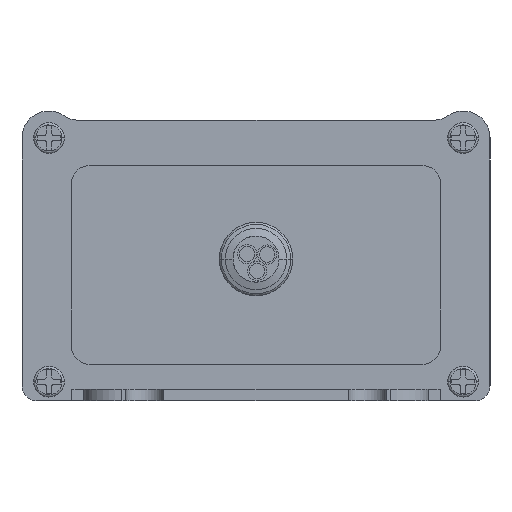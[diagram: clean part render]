
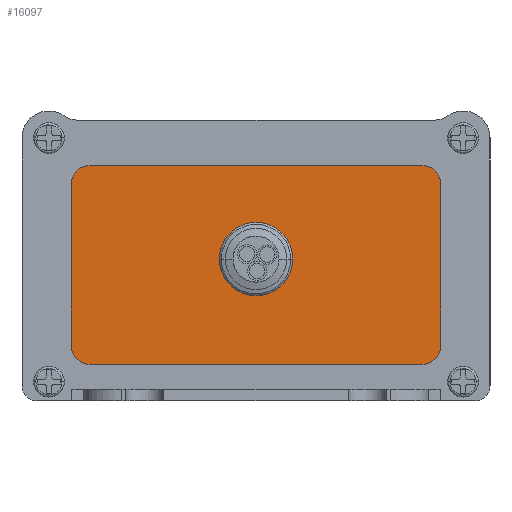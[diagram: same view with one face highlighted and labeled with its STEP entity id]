
A CAD part, left-side view. The second image highlights one B-rep face of the part: STEP entity #16097.
In plain terms, the highlighted planar face has unit normal (-1, 0, 0).
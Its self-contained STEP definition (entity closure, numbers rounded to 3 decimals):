
#5729=CARTESIAN_POINT('',(7.5,-14.5,18.5));
#5730=DIRECTION('',(1.,0.,0.));
#5731=DIRECTION('',(0.,1.,0.));
#5732=AXIS2_PLACEMENT_3D('',#5729,#5730,#5731);
#5737=CARTESIAN_POINT('',(7.5,-14.5,18.5));
#5738=DIRECTION('',(1.,0.,0.));
#5739=DIRECTION('',(0.,-1.,0.));
#5740=AXIS2_PLACEMENT_3D('',#5737,#5738,#5739);
#5745=CARTESIAN_POINT('',(7.5,7.113,28.203));
#5746=DIRECTION('',(-1.,0.,0.));
#5747=DIRECTION('',(0.,0.,1.));
#5748=AXIS2_PLACEMENT_3D('',#5745,#5746,#5747);
#5753=CARTESIAN_POINT('',(7.5,-36.113,28.203));
#5754=DIRECTION('',(-1.,0.,0.));
#5755=DIRECTION('',(0.,-1.,0.));
#5756=AXIS2_PLACEMENT_3D('',#5753,#5754,#5755);
#5761=CARTESIAN_POINT('',(7.5,-36.113,7.282));
#5762=DIRECTION('',(-1.,0.,0.));
#5763=DIRECTION('',(0.,0.,-1.));
#5764=AXIS2_PLACEMENT_3D('',#5761,#5762,#5763);
#5769=CARTESIAN_POINT('',(7.5,7.113,7.282));
#5770=DIRECTION('',(-1.,0.,0.));
#5771=DIRECTION('',(0.,1.,0.));
#5772=AXIS2_PLACEMENT_3D('',#5769,#5770,#5771);
#5777=DIRECTION('',(0.,0.,1.));
#5778=VECTOR('',#5777,20.921);
#5779=CARTESIAN_POINT('',(7.5,9.613,7.282));
#5780=LINE('',#5779,#5778);
#5798=DIRECTION('',(0.,1.,0.));
#5799=VECTOR('',#5798,43.225);
#5800=CARTESIAN_POINT('',(7.5,-36.113,4.782));
#5801=LINE('',#5800,#5799);
#5819=DIRECTION('',(0.,0.,-1.));
#5820=VECTOR('',#5819,20.921);
#5821=CARTESIAN_POINT('',(7.5,-38.613,28.203));
#5822=LINE('',#5821,#5820);
#5840=DIRECTION('',(0.,-1.,0.));
#5841=VECTOR('',#5840,43.225);
#5842=CARTESIAN_POINT('',(7.5,7.113,30.703));
#5843=LINE('',#5842,#5841);
#13484=CARTESIAN_POINT('',(7.5,9.613,7.282));
#13485=CARTESIAN_POINT('',(7.5,9.613,28.203));
#13486=VERTEX_POINT('',#13484);
#13487=VERTEX_POINT('',#13485);
#13488=CARTESIAN_POINT('',(7.5,7.113,4.782));
#13489=VERTEX_POINT('',#13488);
#13490=CARTESIAN_POINT('',(7.5,-36.113,4.782));
#13491=VERTEX_POINT('',#13490);
#13492=CARTESIAN_POINT('',(7.5,-38.613,7.282));
#13493=VERTEX_POINT('',#13492);
#13494=CARTESIAN_POINT('',(7.5,-38.613,28.203));
#13495=VERTEX_POINT('',#13494);
#13496=CARTESIAN_POINT('',(7.5,-36.113,30.703));
#13497=VERTEX_POINT('',#13496);
#13498=CARTESIAN_POINT('',(7.5,7.113,30.703));
#13499=VERTEX_POINT('',#13498);
#13673=CARTESIAN_POINT('',(7.5,-10.,18.5));
#13675=VERTEX_POINT('',#13673);
#13677=CARTESIAN_POINT('',(7.5,-19.,18.5));
#13679=VERTEX_POINT('',#13677);
#16070=CARTESIAN_POINT('',(7.5,-14.5,17.743));
#16071=DIRECTION('',(-1.,0.,0.));
#16072=DIRECTION('',(0.,-1.,0.));
#16073=AXIS2_PLACEMENT_3D('',#16070,#16071,#16072);
#16074=PLANE('',#16073);
#16076=ORIENTED_EDGE('',*,*,#16075,.T.);
#16078=ORIENTED_EDGE('',*,*,#16077,.F.);
#16080=ORIENTED_EDGE('',*,*,#16079,.T.);
#16082=ORIENTED_EDGE('',*,*,#16081,.F.);
#16084=ORIENTED_EDGE('',*,*,#16083,.T.);
#16086=ORIENTED_EDGE('',*,*,#16085,.F.);
#16088=ORIENTED_EDGE('',*,*,#16087,.T.);
#16090=ORIENTED_EDGE('',*,*,#16089,.F.);
#16091=EDGE_LOOP('',(#16076,#16078,#16080,#16082,#16084,#16086,#16088,#16090));
#16092=FACE_OUTER_BOUND('',#16091,.F.);
#16093=ORIENTED_EDGE('',*,*,#16050,.F.);
#16094=ORIENTED_EDGE('',*,*,#16064,.F.);
#16095=EDGE_LOOP('',(#16093,#16094));
#16096=FACE_BOUND('',#16095,.F.);
#5733=CIRCLE('',#5732,4.5);
#5741=CIRCLE('',#5740,4.5);
#5749=CIRCLE('',#5748,2.5);
#5757=CIRCLE('',#5756,2.5);
#5765=CIRCLE('',#5764,2.5);
#5773=CIRCLE('',#5772,2.5);
#16050=EDGE_CURVE('',#13675,#13679,#5733,.T.);
#16064=EDGE_CURVE('',#13679,#13675,#5741,.T.);
#16075=EDGE_CURVE('',#13486,#13487,#5780,.T.);
#16077=EDGE_CURVE('',#13499,#13487,#5749,.T.);
#16079=EDGE_CURVE('',#13499,#13497,#5843,.T.);
#16081=EDGE_CURVE('',#13495,#13497,#5757,.T.);
#16083=EDGE_CURVE('',#13495,#13493,#5822,.T.);
#16085=EDGE_CURVE('',#13491,#13493,#5765,.T.);
#16087=EDGE_CURVE('',#13491,#13489,#5801,.T.);
#16089=EDGE_CURVE('',#13486,#13489,#5773,.T.);
#16097=ADVANCED_FACE('',(#16092,#16096),#16074,.T.);
